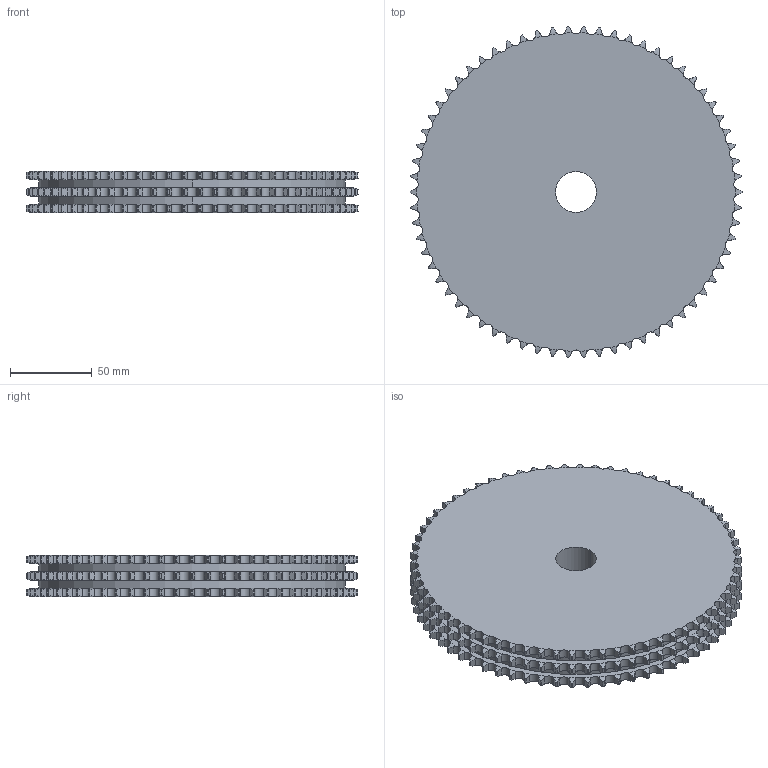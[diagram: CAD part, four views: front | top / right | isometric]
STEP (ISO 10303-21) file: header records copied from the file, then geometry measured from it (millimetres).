
FILE_DESCRIPTION((''),'2;1');
FILE_NAME('500-103-0066_PRT','2021-02-12T',('Brieden'),('Brieden'),'PRO/ENGINEER BY PARAMETRIC TECHNOLOGY CORPORATION, 2010160','PRO/ENGINEER BY PARAMETRIC TECHNOLOGY CORPORATION, 2010160','');
FILE_SCHEMA(('AUTOMOTIVE_DESIGN { 1 0 10303 214 1 1 1 1 }'));
Length unit declared in the file: millimetre
Products named in the file (1): 500-103-0066_PRT
Bounding box: 203.59 x 203.4 x 25.6 mm (x, y, z)
Volume: 742556.3 mm3; surface area: 93183.2 mm2
Topology: 1 solids, 1 shells, 1200 faces, 3582 edges, 2388 vertices
Faces by surface type: cylinder 798, torus 396, plane 6
Entity records: 58737 total; most frequent: CARTESIAN_POINT 17592, ORIENTED_EDGE 7164, DIRECTION 5598, PRESENTATION_STYLE_ASSIGNMENT 3583, STYLED_ITEM 3583, CURVE_STYLE 3582, EDGE_CURVE 3582, AXIS2_PLACEMENT_3D 2400
